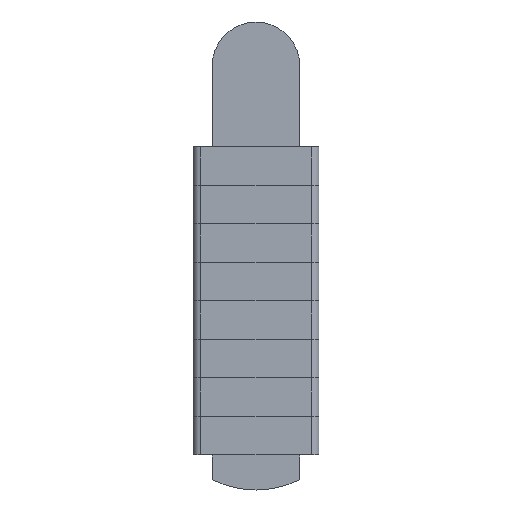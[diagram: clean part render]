
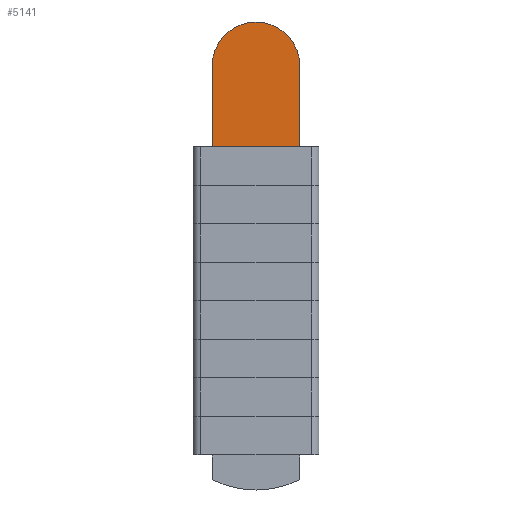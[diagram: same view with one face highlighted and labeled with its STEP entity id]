
A CAD part, front view. The second image highlights one B-rep face of the part: STEP entity #5141.
In plain terms, the highlighted planar face has unit normal (0, -1, 0).
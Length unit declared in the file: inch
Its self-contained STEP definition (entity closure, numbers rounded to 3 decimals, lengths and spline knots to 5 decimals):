
#16 = CARTESIAN_POINT ( 'NONE',  ( 2.31783, 1.77753, 7.70123 ) ) ;
#115 = DIRECTION ( 'NONE',  ( 0., 0., -1. ) ) ;
#182 = CIRCLE ( 'NONE', #2774, 1.56 ) ;
#218 = VECTOR ( 'NONE', #2434, 39.37008 ) ;
#833 = CARTESIAN_POINT ( 'NONE',  ( 2.31783, 1.77753, 4.80123 ) ) ;
#923 = AXIS2_PLACEMENT_3D ( 'NONE', #2285, #3820, #2375 ) ;
#955 = DIRECTION ( 'NONE',  ( 0., 0., -1. ) ) ;
#1019 = CARTESIAN_POINT ( 'NONE',  ( -0.80217, 1.77753, 9.73123 ) ) ;
#1293 = EDGE_CURVE ( 'NONE', #3336, #7163, #182, .T. ) ;
#1444 = EDGE_LOOP ( 'NONE', ( #7689, #8225, #5629, #6238, #6685 ) ) ;
#1476 = CARTESIAN_POINT ( 'NONE',  ( 0.75783, 1.77753, 7.70123 ) ) ;
#1582 = CARTESIAN_POINT ( 'NONE',  ( -0.80217, 1.77753, 7.70123 ) ) ;
#2170 = LINE ( 'NONE', #8228, #218 ) ;
#2285 = CARTESIAN_POINT ( 'NONE',  ( 7.24955, 1.77753, 9.73123 ) ) ;
#2375 = DIRECTION ( 'NONE',  ( 0., 0., -1. ) ) ;
#2434 = DIRECTION ( 'NONE',  ( 0., 0., -1. ) ) ;
#2583 = VECTOR ( 'NONE', #9257, 39.37008 ) ;
#2774 = AXIS2_PLACEMENT_3D ( 'NONE', #4694, #3893, #955 ) ;
#3272 = LINE ( 'NONE', #1019, #2583 ) ;
#3336 = VERTEX_POINT ( 'NONE', #8182 ) ;
#3820 = DIRECTION ( 'NONE',  ( 0., -1., 0. ) ) ;
#3893 = DIRECTION ( 'NONE',  ( 0., -1., 0. ) ) ;
#4038 = LINE ( 'NONE', #7244, #5665 ) ;
#4694 = CARTESIAN_POINT ( 'NONE',  ( 0.75783, 1.77753, 7.70123 ) ) ;
#5141 = ADVANCED_FACE ( 'NONE', ( #9330 ), #8103, .T. ) ;
#5421 = EDGE_CURVE ( 'NONE', #5550, #7163, #3272, .T. ) ;
#5550 = VERTEX_POINT ( 'NONE', #7725 ) ;
#5629 = ORIENTED_EDGE ( 'NONE', *, *, #1293, .T. ) ;
#5665 = VECTOR ( 'NONE', #6528, 39.37008 ) ;
#5863 = DIRECTION ( 'NONE',  ( 0., -1., 0. ) ) ;
#6155 = EDGE_CURVE ( 'NONE', #7931, #3336, #7235, .T. ) ;
#6238 = ORIENTED_EDGE ( 'NONE', *, *, #5421, .F. ) ;
#6528 = DIRECTION ( 'NONE',  ( -1., 0., 0. ) ) ;
#6685 = ORIENTED_EDGE ( 'NONE', *, *, #7204, .F. ) ;
#7163 = VERTEX_POINT ( 'NONE', #1582 ) ;
#7204 = EDGE_CURVE ( 'NONE', #7260, #5550, #4038, .T. ) ;
#7235 = CIRCLE ( 'NONE', #7315, 1.56 ) ;
#7244 = CARTESIAN_POINT ( 'NONE',  ( 7.24955, 1.77753, 4.80123 ) ) ;
#7260 = VERTEX_POINT ( 'NONE', #833 ) ;
#7315 = AXIS2_PLACEMENT_3D ( 'NONE', #1476, #5863, #115 ) ;
#7689 = ORIENTED_EDGE ( 'NONE', *, *, #8764, .F. ) ;
#7725 = CARTESIAN_POINT ( 'NONE',  ( -0.80217, 1.77753, 4.80123 ) ) ;
#7931 = VERTEX_POINT ( 'NONE', #16 ) ;
#8103 = PLANE ( 'NONE',  #923 ) ;
#8182 = CARTESIAN_POINT ( 'NONE',  ( 0.75783, 1.77753, 9.26123 ) ) ;
#8225 = ORIENTED_EDGE ( 'NONE', *, *, #6155, .T. ) ;
#8228 = CARTESIAN_POINT ( 'NONE',  ( 2.31783, 1.77753, 9.73123 ) ) ;
#8764 = EDGE_CURVE ( 'NONE', #7931, #7260, #2170, .T. ) ;
#9257 = DIRECTION ( 'NONE',  ( 0., 0., 1. ) ) ;
#9330 = FACE_OUTER_BOUND ( 'NONE', #1444, .T. ) ;
